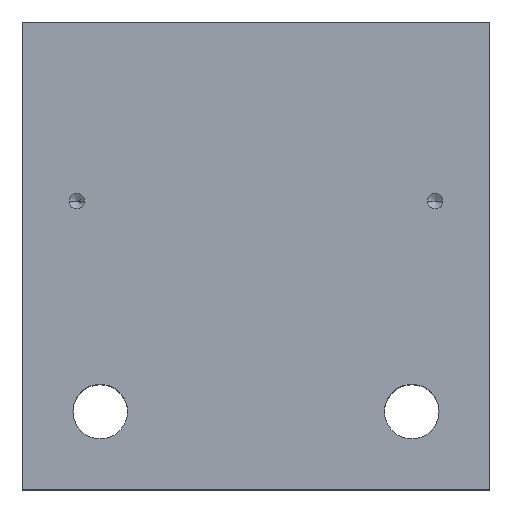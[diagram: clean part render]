
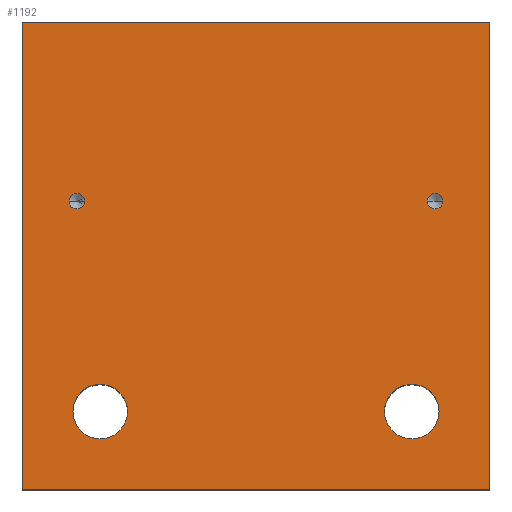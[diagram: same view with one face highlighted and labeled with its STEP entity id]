
A CAD part, top view. The second image highlights one B-rep face of the part: STEP entity #1192.
In plain terms, the highlighted planar face has unit normal (0, 0, 1).
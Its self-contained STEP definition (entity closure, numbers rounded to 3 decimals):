
#18=DIRECTION('',(0.,-1.,0.));
#19=VECTOR('',#18,60.);
#20=CARTESIAN_POINT('',(0.,0.,0.));
#21=LINE('',#20,#19);
#26=DIRECTION('',(-1.,0.,0.));
#27=VECTOR('',#26,60.);
#28=CARTESIAN_POINT('',(60.,0.,0.));
#29=LINE('',#28,#27);
#33=DIRECTION('',(0.,1.,0.));
#34=VECTOR('',#33,60.);
#35=CARTESIAN_POINT('',(60.,-60.,0.));
#36=LINE('',#35,#34);
#40=DIRECTION('',(1.,0.,0.));
#41=VECTOR('',#40,60.);
#42=CARTESIAN_POINT('',(0.,-60.,0.));
#43=LINE('',#42,#41);
#47=CARTESIAN_POINT('',(10.,-50.,0.));
#48=DIRECTION('',(0.,0.,1.));
#49=DIRECTION('',(-1.,0.,0.));
#50=AXIS2_PLACEMENT_3D('',#47,#48,#49);
#55=CARTESIAN_POINT('',(10.,-50.,0.));
#56=DIRECTION('',(0.,0.,1.));
#57=DIRECTION('',(1.,0.,0.));
#58=AXIS2_PLACEMENT_3D('',#55,#56,#57);
#63=CARTESIAN_POINT('',(50.,-50.,0.));
#64=DIRECTION('',(0.,0.,1.));
#65=DIRECTION('',(-1.,0.,0.));
#66=AXIS2_PLACEMENT_3D('',#63,#64,#65);
#71=CARTESIAN_POINT('',(50.,-50.,0.));
#72=DIRECTION('',(0.,0.,1.));
#73=DIRECTION('',(1.,0.,0.));
#74=AXIS2_PLACEMENT_3D('',#71,#72,#73);
#79=CARTESIAN_POINT('',(7.,-23.,0.));
#80=DIRECTION('',(0.,0.,1.));
#81=DIRECTION('',(-1.,0.,0.));
#82=AXIS2_PLACEMENT_3D('',#79,#80,#81);
#87=CARTESIAN_POINT('',(7.,-23.,0.));
#88=DIRECTION('',(0.,0.,1.));
#89=DIRECTION('',(1.,0.,0.));
#90=AXIS2_PLACEMENT_3D('',#87,#88,#89);
#95=CARTESIAN_POINT('',(53.,-23.,0.));
#96=DIRECTION('',(0.,0.,1.));
#97=DIRECTION('',(-1.,0.,0.));
#98=AXIS2_PLACEMENT_3D('',#95,#96,#97);
#103=CARTESIAN_POINT('',(53.,-23.,0.));
#104=DIRECTION('',(0.,0.,1.));
#105=DIRECTION('',(1.,0.,0.));
#106=AXIS2_PLACEMENT_3D('',#103,#104,#105);
#1013=CARTESIAN_POINT('',(0.,0.,0.));
#1014=CARTESIAN_POINT('',(0.,-60.,0.));
#1015=VERTEX_POINT('',#1013);
#1016=VERTEX_POINT('',#1014);
#1017=CARTESIAN_POINT('',(60.,-60.,0.));
#1018=VERTEX_POINT('',#1017);
#1019=CARTESIAN_POINT('',(60.,0.,0.));
#1020=VERTEX_POINT('',#1019);
#1100=CARTESIAN_POINT('',(6.5,-50.,0.));
#1102=VERTEX_POINT('',#1100);
#1104=CARTESIAN_POINT('',(13.5,-50.,0.));
#1106=VERTEX_POINT('',#1104);
#1108=CARTESIAN_POINT('',(46.5,-50.,0.));
#1110=VERTEX_POINT('',#1108);
#1112=CARTESIAN_POINT('',(53.5,-50.,0.));
#1114=VERTEX_POINT('',#1112);
#1139=CARTESIAN_POINT('',(6.,-23.,0.));
#1140=VERTEX_POINT('',#1139);
#1141=CARTESIAN_POINT('',(8.,-23.,0.));
#1142=VERTEX_POINT('',#1141);
#1149=CARTESIAN_POINT('',(52.,-23.,0.));
#1150=VERTEX_POINT('',#1149);
#1151=CARTESIAN_POINT('',(54.,-23.,0.));
#1152=VERTEX_POINT('',#1151);
#1153=CARTESIAN_POINT('',(0.,0.,0.));
#1154=DIRECTION('',(0.,0.,1.));
#1155=DIRECTION('',(1.,0.,0.));
#1156=AXIS2_PLACEMENT_3D('',#1153,#1154,#1155);
#1157=PLANE('',#1156);
#1159=ORIENTED_EDGE('',*,*,#1158,.F.);
#1161=ORIENTED_EDGE('',*,*,#1160,.F.);
#1163=ORIENTED_EDGE('',*,*,#1162,.F.);
#1165=ORIENTED_EDGE('',*,*,#1164,.F.);
#1166=EDGE_LOOP('',(#1159,#1161,#1163,#1165));
#1167=FACE_OUTER_BOUND('',#1166,.F.);
#1169=ORIENTED_EDGE('',*,*,#1168,.T.);
#1171=ORIENTED_EDGE('',*,*,#1170,.T.);
#1172=EDGE_LOOP('',(#1169,#1171));
#1173=FACE_BOUND('',#1172,.F.);
#1175=ORIENTED_EDGE('',*,*,#1174,.T.);
#1177=ORIENTED_EDGE('',*,*,#1176,.T.);
#1178=EDGE_LOOP('',(#1175,#1177));
#1179=FACE_BOUND('',#1178,.F.);
#1181=ORIENTED_EDGE('',*,*,#1180,.T.);
#1183=ORIENTED_EDGE('',*,*,#1182,.T.);
#1184=EDGE_LOOP('',(#1181,#1183));
#1185=FACE_BOUND('',#1184,.F.);
#1187=ORIENTED_EDGE('',*,*,#1186,.T.);
#1189=ORIENTED_EDGE('',*,*,#1188,.T.);
#1190=EDGE_LOOP('',(#1187,#1189));
#1191=FACE_BOUND('',#1190,.F.);
#51=CIRCLE('',#50,3.5);
#59=CIRCLE('',#58,3.5);
#67=CIRCLE('',#66,3.5);
#75=CIRCLE('',#74,3.5);
#83=CIRCLE('',#82,1.);
#91=CIRCLE('',#90,1.);
#99=CIRCLE('',#98,1.);
#107=CIRCLE('',#106,1.);
#1158=EDGE_CURVE('',#1015,#1016,#21,.T.);
#1160=EDGE_CURVE('',#1020,#1015,#29,.T.);
#1162=EDGE_CURVE('',#1018,#1020,#36,.T.);
#1164=EDGE_CURVE('',#1016,#1018,#43,.T.);
#1168=EDGE_CURVE('',#1102,#1106,#51,.T.);
#1170=EDGE_CURVE('',#1106,#1102,#59,.T.);
#1174=EDGE_CURVE('',#1110,#1114,#67,.T.);
#1176=EDGE_CURVE('',#1114,#1110,#75,.T.);
#1180=EDGE_CURVE('',#1140,#1142,#83,.T.);
#1182=EDGE_CURVE('',#1142,#1140,#91,.T.);
#1186=EDGE_CURVE('',#1150,#1152,#99,.T.);
#1188=EDGE_CURVE('',#1152,#1150,#107,.T.);
#1192=ADVANCED_FACE('',(#1167,#1173,#1179,#1185,#1191),#1157,.T.);
